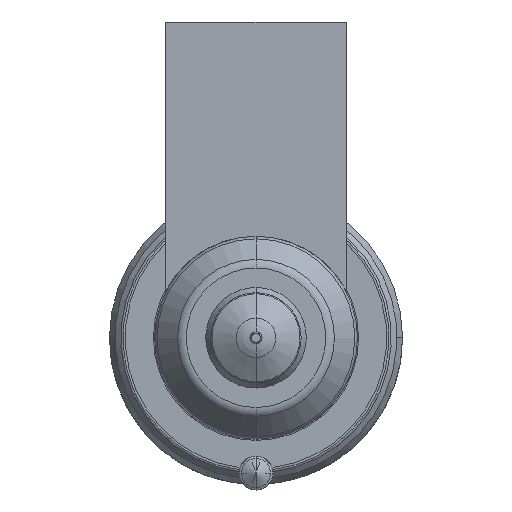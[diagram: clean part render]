
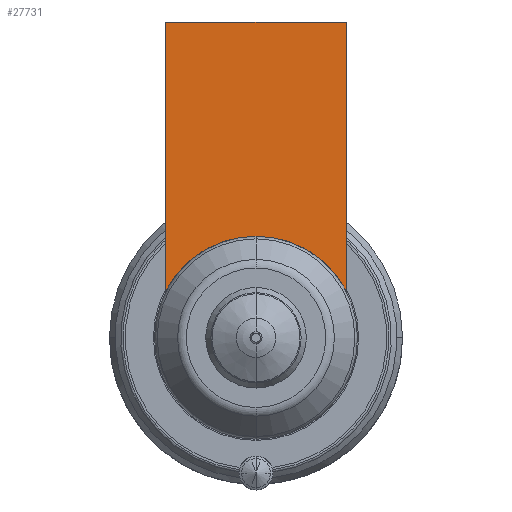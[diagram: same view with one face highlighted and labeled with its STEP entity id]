
A CAD part, front view. The second image highlights one B-rep face of the part: STEP entity #27731.
In plain terms, the highlighted planar face has unit normal (0, -1, 0).
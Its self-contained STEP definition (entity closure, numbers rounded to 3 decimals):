
#26840=DIRECTION('',(1.,0.,0.));
#26841=VECTOR('',#26840,16.);
#26842=CARTESIAN_POINT('',(-8.,-54.,28.));
#26843=LINE('',#26842,#26841);
#26848=CARTESIAN_POINT('',(0.,-54.,0.));
#26849=DIRECTION('',(0.,-1.,0.));
#26850=DIRECTION('',(0.889,0.,0.458));
#26851=AXIS2_PLACEMENT_3D('',#26848,#26849,#26850);
#26856=CARTESIAN_POINT('',(0.,-54.,0.));
#26857=DIRECTION('',(0.,-1.,0.));
#26858=DIRECTION('',(0.,0.,1.));
#26859=AXIS2_PLACEMENT_3D('',#26856,#26857,#26858);
#26885=DIRECTION('',(0.,0.,-1.));
#26886=VECTOR('',#26885,23.877);
#26887=CARTESIAN_POINT('',(-8.,-54.,28.));
#26888=LINE('',#26887,#26886);
#27575=DIRECTION('',(0.,0.,-1.));
#27576=VECTOR('',#27575,23.877);
#27577=CARTESIAN_POINT('',(8.,-54.,28.));
#27578=LINE('',#27577,#27576);
#27628=CARTESIAN_POINT('',(-8.,-54.,28.));
#27629=VERTEX_POINT('',#27628);
#27634=CARTESIAN_POINT('',(8.,-54.,28.));
#27635=VERTEX_POINT('',#27634);
#27638=CARTESIAN_POINT('',(-8.,-54.,4.123));
#27639=VERTEX_POINT('',#27638);
#27642=CARTESIAN_POINT('',(8.,-54.,4.123));
#27643=VERTEX_POINT('',#27642);
#27712=CARTESIAN_POINT('',(0.,-54.,9.));
#27713=VERTEX_POINT('',#27712);
#27714=CARTESIAN_POINT('',(0.,-54.,9.));
#27715=DIRECTION('',(0.,1.,0.));
#27716=DIRECTION('',(0.,0.,-1.));
#27717=AXIS2_PLACEMENT_3D('',#27714,#27715,#27716);
#27718=PLANE('',#27717);
#27720=ORIENTED_EDGE('',*,*,#27719,.F.);
#27722=ORIENTED_EDGE('',*,*,#27721,.T.);
#27724=ORIENTED_EDGE('',*,*,#27723,.T.);
#27726=ORIENTED_EDGE('',*,*,#27725,.T.);
#27728=ORIENTED_EDGE('',*,*,#27727,.T.);
#27729=EDGE_LOOP('',(#27720,#27722,#27724,#27726,#27728));
#27730=FACE_OUTER_BOUND('',#27729,.F.);
#27731=ADVANCED_FACE('',(#27730),#27718,.F.);
#26852=CIRCLE('',#26851,9.);
#26860=CIRCLE('',#26859,9.);
#27719=EDGE_CURVE('',#27629,#27639,#26888,.T.);
#27721=EDGE_CURVE('',#27629,#27635,#26843,.T.);
#27723=EDGE_CURVE('',#27635,#27643,#27578,.T.);
#27725=EDGE_CURVE('',#27643,#27713,#26852,.T.);
#27727=EDGE_CURVE('',#27713,#27639,#26860,.T.);
